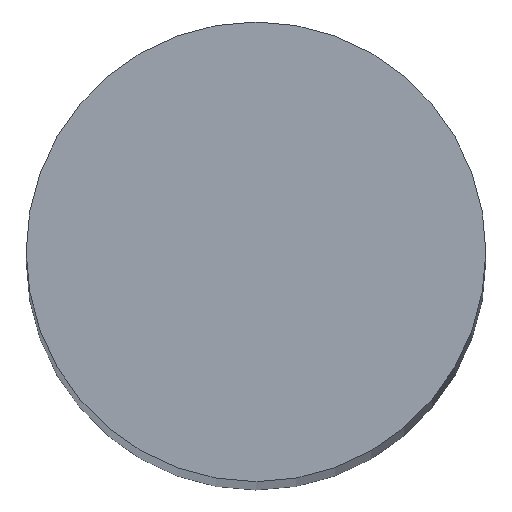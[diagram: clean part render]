
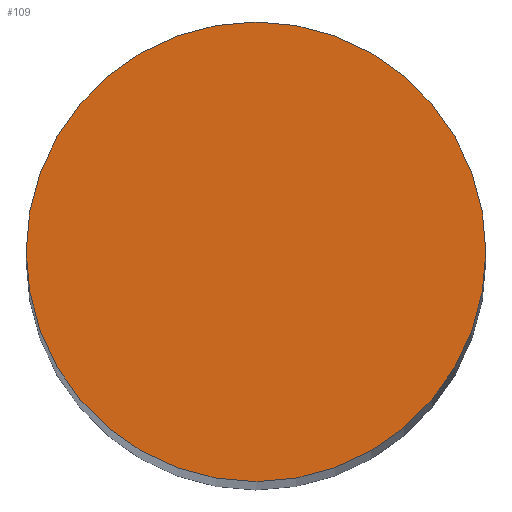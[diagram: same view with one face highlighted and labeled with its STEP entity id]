
A CAD part, top view. The second image highlights one B-rep face of the part: STEP entity #109.
In plain terms, the highlighted planar face has unit normal (0, 0, 1).
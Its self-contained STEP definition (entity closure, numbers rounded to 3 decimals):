
#24 = VERTEX_POINT('',#25);
#25 = CARTESIAN_POINT('',(12.,0.,250.));
#32 = CYLINDRICAL_SURFACE('',#33,12.);
#33 = AXIS2_PLACEMENT_3D('',#34,#35,#36);
#34 = CARTESIAN_POINT('',(0.,0.,0.));
#35 = DIRECTION('',(-0.,-0.,-1.));
#36 = DIRECTION('',(1.,0.,-0.));
#51 = EDGE_CURVE('',#24,#24,#52,.T.);
#52 = SURFACE_CURVE('',#53,(#58,#65),.PCURVE_S1.);
#53 = CIRCLE('',#54,12.);
#54 = AXIS2_PLACEMENT_3D('',#55,#56,#57);
#55 = CARTESIAN_POINT('',(0.,0.,250.));
#56 = DIRECTION('',(0.,0.,1.));
#57 = DIRECTION('',(1.,0.,-0.));
#58 = PCURVE('',#32,#59);
#59 = DEFINITIONAL_REPRESENTATION('',(#60),#64);
#60 = LINE('',#61,#62);
#61 = CARTESIAN_POINT('',(-0.,-250.));
#62 = VECTOR('',#63,1.);
#63 = DIRECTION('',(-1.,0.));
#64 = ( GEOMETRIC_REPRESENTATION_CONTEXT(2) 
PARAMETRIC_REPRESENTATION_CONTEXT() REPRESENTATION_CONTEXT('2D SPACE',''
  ) );
#65 = PCURVE('',#66,#71);
#66 = PLANE('',#67);
#67 = AXIS2_PLACEMENT_3D('',#68,#69,#70);
#68 = CARTESIAN_POINT('',(0.,0.,250.));
#69 = DIRECTION('',(0.,0.,1.));
#70 = DIRECTION('',(1.,0.,-0.));
#71 = DEFINITIONAL_REPRESENTATION('',(#72),#76);
#72 = CIRCLE('',#73,12.);
#73 = AXIS2_PLACEMENT_2D('',#74,#75);
#74 = CARTESIAN_POINT('',(0.,0.));
#75 = DIRECTION('',(1.,0.));
#76 = ( GEOMETRIC_REPRESENTATION_CONTEXT(2) 
PARAMETRIC_REPRESENTATION_CONTEXT() REPRESENTATION_CONTEXT('2D SPACE',''
  ) );
#109 = ADVANCED_FACE('',(#110),#66,.T.);
#110 = FACE_BOUND('',#111,.T.);
#111 = EDGE_LOOP('',(#112));
#112 = ORIENTED_EDGE('',*,*,#51,.T.);
